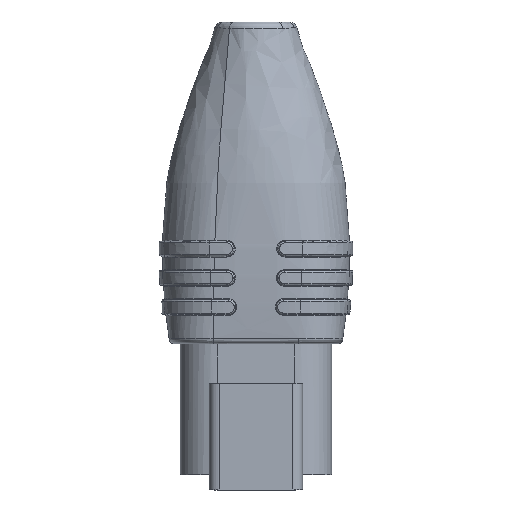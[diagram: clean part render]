
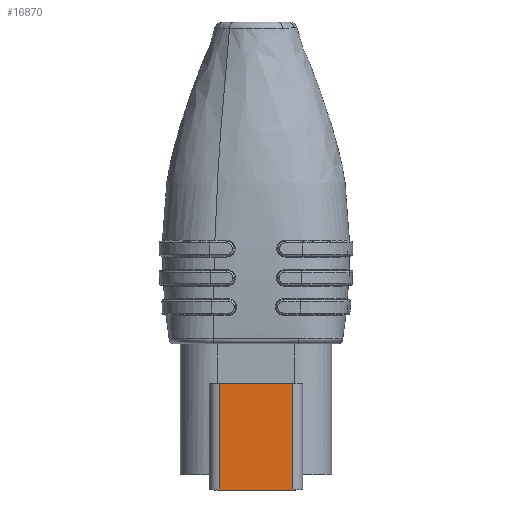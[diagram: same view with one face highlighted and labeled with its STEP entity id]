
A CAD part, front view. The second image highlights one B-rep face of the part: STEP entity #16870.
In plain terms, the highlighted planar face has unit normal (0, -1, 0).
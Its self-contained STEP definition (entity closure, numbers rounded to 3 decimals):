
#767 = PLANE ( 'NONE',  #1353 ) ;
#1353 = AXIS2_PLACEMENT_3D ( 'NONE', #8683, #7168, #13443 ) ;
#1383 = DIRECTION ( 'NONE',  ( -1., 0., 0. ) ) ;
#2846 = DIRECTION ( 'NONE',  ( 0., 0., 1. ) ) ;
#2948 = CARTESIAN_POINT ( 'NONE',  ( -70.108, 20.303, -69.817 ) ) ;
#4171 = ORIENTED_EDGE ( 'NONE', *, *, #19940, .T. ) ;
#4337 = VERTEX_POINT ( 'NONE', #2948 ) ;
#4451 = DIRECTION ( 'NONE',  ( -1., 0., 0. ) ) ;
#7168 = DIRECTION ( 'NONE',  ( 0., -1., 0. ) ) ;
#7186 = ORIENTED_EDGE ( 'NONE', *, *, #16445, .F. ) ;
#7471 = VECTOR ( 'NONE', #2846, 1000. ) ;
#8093 = CARTESIAN_POINT ( 'NONE',  ( -65.133, 20.303, -69.817 ) ) ;
#8510 = EDGE_LOOP ( 'NONE', ( #17351, #7186, #4171, #13253 ) ) ;
#8683 = CARTESIAN_POINT ( 'NONE',  ( -60.158, 20.303, -69.817 ) ) ;
#8946 = LINE ( 'NONE', #20664, #19301 ) ;
#9324 = CARTESIAN_POINT ( 'NONE',  ( -70.108, 20.303, -69.817 ) ) ;
#11415 = CARTESIAN_POINT ( 'NONE',  ( -60.158, 20.303, -55.317 ) ) ;
#11512 = FACE_OUTER_BOUND ( 'NONE', #8510, .T. ) ;
#11523 = VERTEX_POINT ( 'NONE', #11415 ) ;
#12160 = EDGE_CURVE ( 'NONE', #13727, #4337, #13505, .T. ) ;
#12289 = LINE ( 'NONE', #16072, #14060 ) ;
#13253 = ORIENTED_EDGE ( 'NONE', *, *, #15731, .F. ) ;
#13443 = DIRECTION ( 'NONE',  ( 0., 0., -1. ) ) ;
#13505 = LINE ( 'NONE', #8093, #18049 ) ;
#13727 = VERTEX_POINT ( 'NONE', #15241 ) ;
#14060 = VECTOR ( 'NONE', #19157, 1000. ) ;
#14079 = LINE ( 'NONE', #9324, #7471 ) ;
#15241 = CARTESIAN_POINT ( 'NONE',  ( -60.158, 20.303, -69.817 ) ) ;
#15731 = EDGE_CURVE ( 'NONE', #4337, #18534, #14079, .T. ) ;
#16072 = CARTESIAN_POINT ( 'NONE',  ( -60.158, 20.303, -69.817 ) ) ;
#16445 = EDGE_CURVE ( 'NONE', #11523, #13727, #12289, .T. ) ;
#16870 = ADVANCED_FACE ( 'NONE', ( #11512 ), #767, .T. ) ;
#17351 = ORIENTED_EDGE ( 'NONE', *, *, #12160, .F. ) ;
#18016 = CARTESIAN_POINT ( 'NONE',  ( -70.108, 20.303, -55.317 ) ) ;
#18049 = VECTOR ( 'NONE', #4451, 1000. ) ;
#18534 = VERTEX_POINT ( 'NONE', #18016 ) ;
#19157 = DIRECTION ( 'NONE',  ( 0., 0., -1. ) ) ;
#19301 = VECTOR ( 'NONE', #1383, 1000. ) ;
#19940 = EDGE_CURVE ( 'NONE', #11523, #18534, #8946, .T. ) ;
#20664 = CARTESIAN_POINT ( 'NONE',  ( -60.158, 20.303, -55.317 ) ) ;
